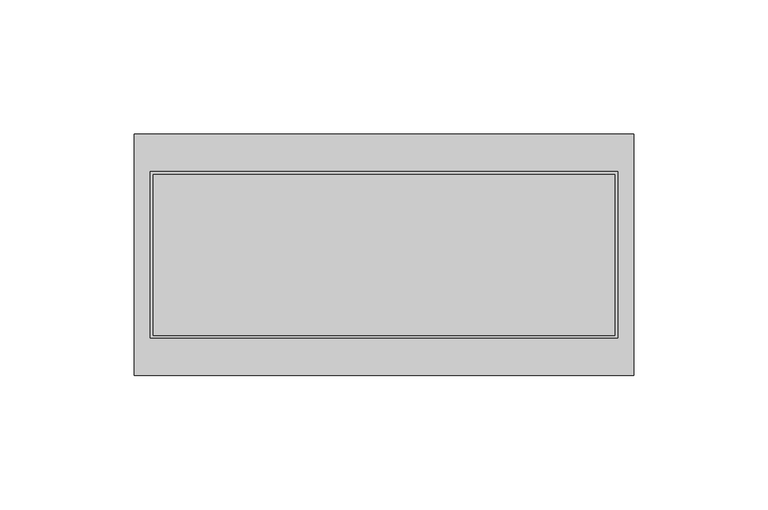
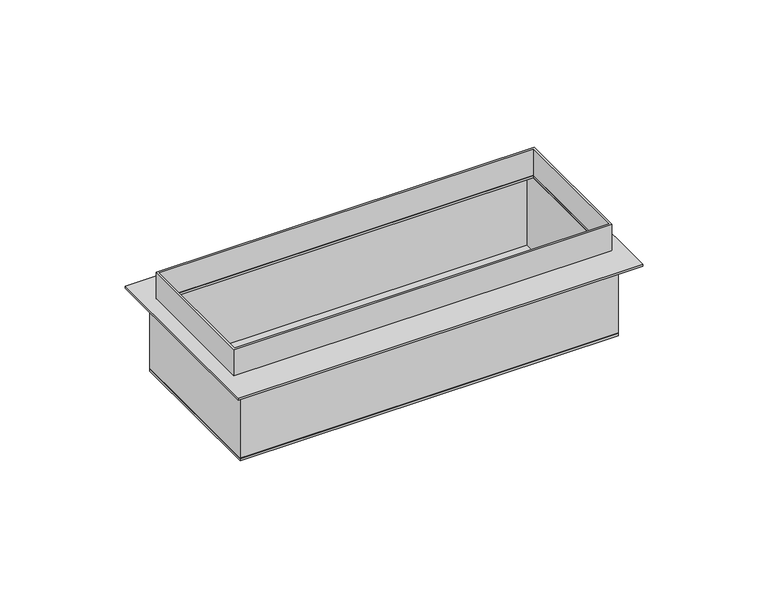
"""IFC4 building model written with IfcOpenShell, lengths in millimetres: proxy geometry, 00-Scatola da incasso : Scatola 7 moduli in linea."""

from ifc_helpers import new_model, si_unit, frame, origin, place, context, project, spatial, polyline, outline, extrude, source, transform, mapped, element, save


def electrical_fixtures_a2e67f04(model_context):
    return source(origin(), model_context, "Body", "SweptSolid", [
        extrude(outline(polyline([(87.0, -36.0), (-87.0, -36.0), (-87.0, 36.0), (87.0, 36.0), (87.0, -36.0)])), frame((0.0, 0.0, -51.0), z_axis=(0.0, 0.0, 1.0), x_axis=(1.0, 0.0, 0.0)), (0.0, 0.0, 1.0), 1.0),
        extrude(outline(polyline([(87.0, -36.0), (-87.0, -36.0), (-87.0, 36.0), (87.0, 36.0), (87.0, -36.0)]), holes=[polyline([(-86.0, 35.0), (-86.0, -35.0), (86.0, -35.0), (86.0, 35.0), (-86.0, 35.0)])]), frame((0.0, 0.0, -50.0), z_axis=(0.0, 0.0, 1.0), x_axis=(1.0, 0.0, 0.0)), (0.0, 0.0, 1.0), 36.0),
        extrude(outline(polyline([(93.0, -45.0), (-93.0, -45.0), (-93.0, 45.0), (93.0, 45.0), (93.0, -45.0)]), holes=[polyline([(86.0, -30.0), (86.0, 30.0), (-86.0, 30.0), (-86.0, -30.0), (86.0, -30.0)])]), frame((0.0, 0.0, -14.0), z_axis=(0.0, 0.0, 1.0), x_axis=(1.0, 0.0, 0.0)), (0.0, 0.0, 1.0), 1.0),
        extrude(outline(polyline([(87.0, -31.0), (-87.0, -31.0), (-87.0, 31.0), (87.0, 31.0), (87.0, -31.0)]), holes=[polyline([(-86.0, 30.0), (-86.0, -30.0), (86.0, -30.0), (86.0, 30.0), (-86.0, 30.0)])]), frame((0.0, 0.0, -13.0), z_axis=(0.0, 0.0, 1.0), x_axis=(1.0, 0.0, 0.0)), (0.0, 0.0, 1.0), 13.0),
    ])


if __name__ == "__main__":
    model = new_model("IFC4")
    model_context = context("Model", 3, world=origin())
    ifc_project = project(units=[si_unit("LENGTHUNIT", "METRE", prefix="MILLI")], contexts=[model_context])
    site = spatial("IfcSite", under=ifc_project)
    building = spatial("IfcBuilding", under=site)
    placement = place(None, origin())
    electrical_fixtures_shape = electrical_fixtures_a2e67f04(model_context)
    element("IfcBuildingElementProxy", 1, Name="00-Scatola da incasso : Scatola 7 moduli in linea", ObjectType="00-Scatola da incasso : Scatola 7 moduli in linea", at=placement, inside=building, context=model_context, shape_type="MappedRepresentation", body=[
        mapped(electrical_fixtures_shape, transform((0.0, 0.0, 0.0), x_axis=(1.0, 0.0, 0.0), y_axis=(0.0, 1.0, 0.0), z_axis=(0.0, 0.0, 1.0))),
    ])
    save(model, "model.ifc")
